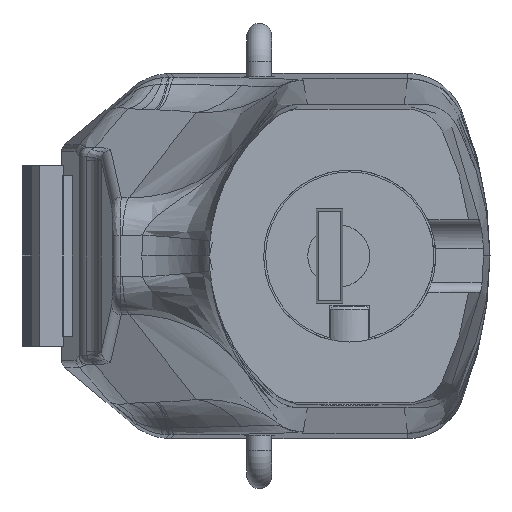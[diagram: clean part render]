
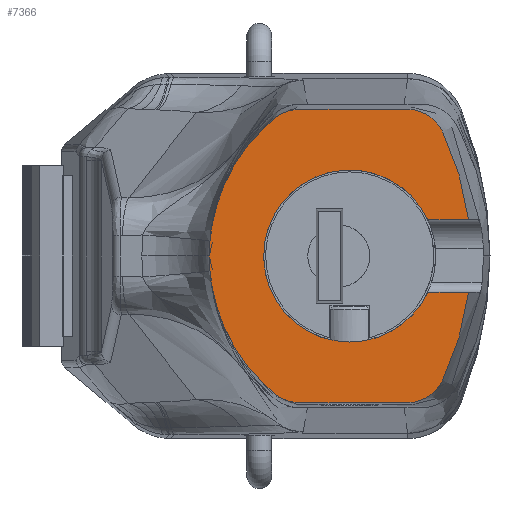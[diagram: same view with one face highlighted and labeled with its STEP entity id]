
A CAD part, left-side view. The second image highlights one B-rep face of the part: STEP entity #7366.
In plain terms, the highlighted planar face has unit normal (-1, 0, 0).
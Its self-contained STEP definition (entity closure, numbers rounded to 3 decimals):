
#102=PLANE('',#7834);
#285=B_SPLINE_CURVE_WITH_KNOTS('',3,(#10928,#10929,#10930,#10931,#10932,
#10933,#10934,#10935,#10936,#10937,#10938,#10939,#10940,#10941,#10942,#10943,
#10944,#10945,#10946,#10947,#10948),.UNSPECIFIED.,.F.,.F.,(4,2,2,2,2,2,
2,2,2,1,4),(0.078,0.278,0.281,0.364,
0.37,0.604,0.614,0.66,
0.67,0.835,1.),.UNSPECIFIED.);
#289=B_SPLINE_CURVE_WITH_KNOTS('',3,(#10988,#10989,#10990,#10991,#10992,
#10993,#10994,#10995,#10996,#10997,#10998,#10999,#11000,#11001,#11002,#11003,
#11004,#11005,#11006,#11007,#11008),.UNSPECIFIED.,.F.,.F.,(4,2,2,2,2,2,
2,2,2,1,4),(0.078,0.278,0.281,0.364,
0.37,0.604,0.614,0.66,
0.67,0.835,1.),.UNSPECIFIED.);
#748=FACE_OUTER_BOUND('',#1185,.T.);
#1185=EDGE_LOOP('',(#4931,#4932,#4933,#4934,#4935,#4936));
#1631=LINE('',#10829,#2112);
#1632=LINE('',#10841,#2113);
#2112=VECTOR('',#8520,10.);
#2113=VECTOR('',#8523,10.);
#2592=CIRCLE('',#7835,8.95);
#2593=CIRCLE('',#7836,8.95);
#2919=VERTEX_POINT('',#10826);
#2920=VERTEX_POINT('',#10828);
#2921=VERTEX_POINT('',#10835);
#2922=VERTEX_POINT('',#10840);
#2923=VERTEX_POINT('',#10927);
#2928=VERTEX_POINT('',#10985);
#3705=EDGE_CURVE('',#2920,#2919,#1631,.T.);
#3708=EDGE_CURVE('',#2922,#2921,#1632,.T.);
#3710=EDGE_CURVE('',#2920,#2923,#285,.T.);
#3716=EDGE_CURVE('',#2919,#2928,#2592,.T.);
#3717=EDGE_CURVE('',#2928,#2922,#2593,.T.);
#3718=EDGE_CURVE('',#2921,#2923,#289,.T.);
#4931=ORIENTED_EDGE('',*,*,#3705,.T.);
#4932=ORIENTED_EDGE('',*,*,#3716,.T.);
#4933=ORIENTED_EDGE('',*,*,#3717,.T.);
#4934=ORIENTED_EDGE('',*,*,#3708,.T.);
#4935=ORIENTED_EDGE('',*,*,#3718,.T.);
#4936=ORIENTED_EDGE('',*,*,#3710,.F.);
#7366=ADVANCED_FACE('',(#748),#102,.F.);
#7834=AXIS2_PLACEMENT_3D('',#10984,#8527,#8528);
#7835=AXIS2_PLACEMENT_3D('',#10986,#8529,#8530);
#7836=AXIS2_PLACEMENT_3D('',#10987,#8531,#8532);
#8520=DIRECTION('',(0.,1.,0.));
#8523=DIRECTION('',(0.,-1.,0.));
#8527=DIRECTION('center_axis',(1.,0.,0.));
#8528=DIRECTION('ref_axis',(0.,0.,
-1.));
#8529=DIRECTION('center_axis',(1.,0.,0.));
#8530=DIRECTION('ref_axis',(0.,0.,
1.));
#8531=DIRECTION('center_axis',(1.,0.,0.));
#8532=DIRECTION('ref_axis',(0.,0.,
1.));
#10826=CARTESIAN_POINT('',(0.,-108.126,-3.75));
#10828=CARTESIAN_POINT('',(0.,-112.365,-3.75));
#10829=CARTESIAN_POINT('',(0.,-106.823,-3.75));
#10835=CARTESIAN_POINT('',(0.,-112.365,3.75));
#10840=CARTESIAN_POINT('',(0.,-108.126,3.75));
#10841=CARTESIAN_POINT('',(0.,-103.719,3.75));
#10927=CARTESIAN_POINT('',(0.,-85.4,0.));
#10928=CARTESIAN_POINT('Ctrl Pts',(0.,-112.363,
-3.75));
#10929=CARTESIAN_POINT('Ctrl Pts',(0.,-111.958,
-6.945));
#10930=CARTESIAN_POINT('Ctrl Pts',(0.,-111.041,
-10.076));
#10931=CARTESIAN_POINT('Ctrl Pts',(0.,-109.624,
-13.028));
#10932=CARTESIAN_POINT('Ctrl Pts',(0.,-109.601,
-13.075));
#10933=CARTESIAN_POINT('Ctrl Pts',(0.,-108.951,
-14.318));
#10934=CARTESIAN_POINT('Ctrl Pts',(0.,-107.682,
-15.147));
#10935=CARTESIAN_POINT('Ctrl Pts',(0.,-106.236,
-15.247));
#10936=CARTESIAN_POINT('Ctrl Pts',(0.,-106.139,
-15.251));
#10937=CARTESIAN_POINT('Ctrl Pts',(0.,-102.277,
-15.249));
#10938=CARTESIAN_POINT('Ctrl Pts',(0.,-98.515,
-15.25));
#10939=CARTESIAN_POINT('Ctrl Pts',(0.,-94.58,
-15.25));
#10940=CARTESIAN_POINT('Ctrl Pts',(0.,-94.409,
-15.239));
#10941=CARTESIAN_POINT('Ctrl Pts',(0.,-93.506,
-15.123));
#10942=CARTESIAN_POINT('Ctrl Pts',(0.,-92.801,
-14.82));
#10943=CARTESIAN_POINT('Ctrl Pts',(0.,-92.106,
-14.254));
#10944=CARTESIAN_POINT('Ctrl Pts',(0.,-91.984,
-14.153));
#10945=CARTESIAN_POINT('Ctrl Pts',(0.,-89.845,
-12.32));
#10946=CARTESIAN_POINT('Ctrl Pts',(0.,-86.567,
-7.975));
#10947=CARTESIAN_POINT('Ctrl Pts',(0.,-85.4,
-2.659));
#10948=CARTESIAN_POINT('Ctrl Pts',(0.,-85.4,0.));
#10984=CARTESIAN_POINT('Origin',(0.,-99.311,
5.879));
#10985=CARTESIAN_POINT('',(0.,-100.,-8.95));
#10986=CARTESIAN_POINT('Origin',(0.,-100.,0.));
#10987=CARTESIAN_POINT('Origin',(0.,-100.,0.));
#10988=CARTESIAN_POINT('Ctrl Pts',(0.,-112.363,
3.75));
#10989=CARTESIAN_POINT('Ctrl Pts',(0.,-111.958,
6.945));
#10990=CARTESIAN_POINT('Ctrl Pts',(0.,-111.041,
10.076));
#10991=CARTESIAN_POINT('Ctrl Pts',(0.,-109.624,
13.028));
#10992=CARTESIAN_POINT('Ctrl Pts',(0.,-109.601,
13.075));
#10993=CARTESIAN_POINT('Ctrl Pts',(0.,-108.951,
14.318));
#10994=CARTESIAN_POINT('Ctrl Pts',(0.,-107.682,
15.147));
#10995=CARTESIAN_POINT('Ctrl Pts',(0.,-106.236,
15.247));
#10996=CARTESIAN_POINT('Ctrl Pts',(0.,-106.139,
15.251));
#10997=CARTESIAN_POINT('Ctrl Pts',(0.,-102.277,
15.249));
#10998=CARTESIAN_POINT('Ctrl Pts',(0.,-98.515,
15.25));
#10999=CARTESIAN_POINT('Ctrl Pts',(0.,-94.58,
15.25));
#11000=CARTESIAN_POINT('Ctrl Pts',(0.,-94.409,
15.239));
#11001=CARTESIAN_POINT('Ctrl Pts',(0.,-93.506,
15.123));
#11002=CARTESIAN_POINT('Ctrl Pts',(0.,-92.801,
14.82));
#11003=CARTESIAN_POINT('Ctrl Pts',(0.,-92.106,
14.254));
#11004=CARTESIAN_POINT('Ctrl Pts',(0.,-91.984,
14.153));
#11005=CARTESIAN_POINT('Ctrl Pts',(0.,-89.845,
12.32));
#11006=CARTESIAN_POINT('Ctrl Pts',(0.,-86.567,
7.975));
#11007=CARTESIAN_POINT('Ctrl Pts',(0.,-85.4,
2.659));
#11008=CARTESIAN_POINT('Ctrl Pts',(0.,-85.4,0.));
